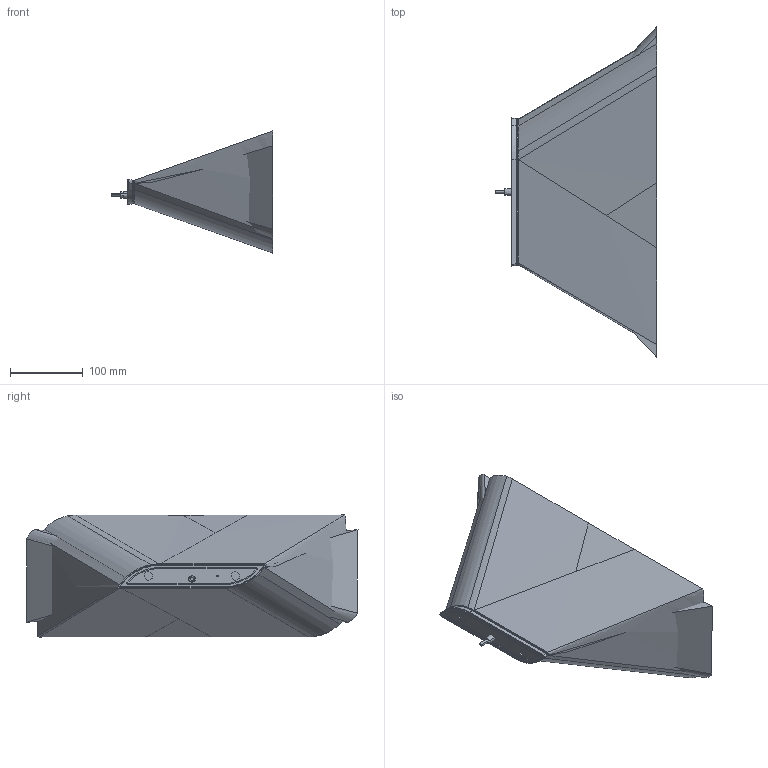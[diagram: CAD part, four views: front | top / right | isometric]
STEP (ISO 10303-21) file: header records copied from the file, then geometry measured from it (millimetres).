
FILE_DESCRIPTION(('CATIA V5 STEP Exchange','CAx-IF Rec.Pracs.--- Model Styling and Organization---1.5--- 2016-08-15','CAx-IF Rec.Pracs.---Supplemental Geometry---1.0---2011-11-01','CAx-IF Rec.Pracs.--- Composite Materials ---1.1---2010-07-15'),'2;1');
FILE_NAME('E:\tmp\ddx\2011205\HELLA_3D_data_LED_side_marker_lamp_SHAPELINE_style_2PS-013-305.stp','2022-01-18T07:02:13+00:00',('none'),('none'),'CATIA Version 5-6 Release 2020 SP3 HF9','CATIA V5 STEP AP214 Edition 3 v2','none');
FILE_SCHEMA(('AUTOMOTIVE_DESIGN { 1 0 10303 214 3 1 1 1 }'));
Length unit declared in the file: millimetre
Products named in the file (1): 10001749836_D10_001
Bounding box: 223 x 457.58 x 168.17 mm (x, y, z)
Volume: 76716.7 mm3; surface area: 322852.6 mm2
Topology: 1 solids, 3 shells, 418 faces, 989 edges, 578 vertices
Faces by surface type: bspline 192, cylinder 97, plane 69, cone 30, torus 20, sphere 6, extrusion 4
Entity records: 23317 total; most frequent: CARTESIAN_POINT 15860, ORIENTED_EDGE 1904, EDGE_CURVE 983, DIRECTION 765, B_SPLINE_CURVE_WITH_KNOTS 583, VERTEX_POINT 578, EDGE_LOOP 431, ADVANCED_FACE 418
